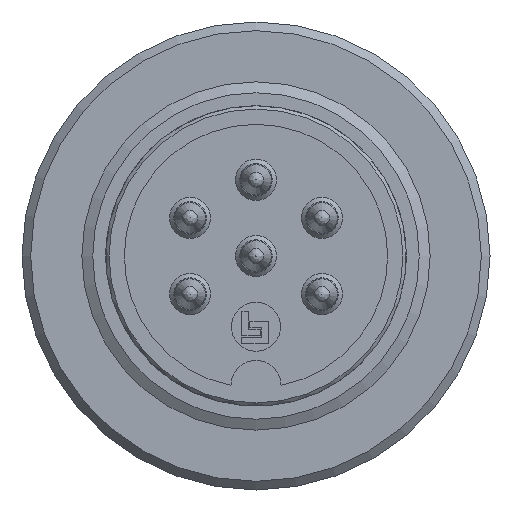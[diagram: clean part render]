
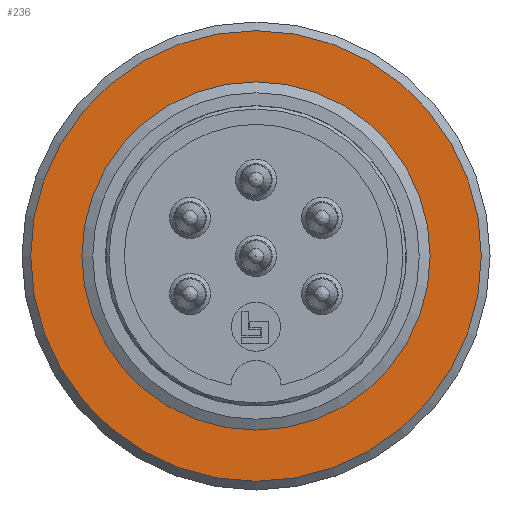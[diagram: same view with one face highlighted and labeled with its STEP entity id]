
A CAD part, left-side view. The second image highlights one B-rep face of the part: STEP entity #236.
In plain terms, the highlighted planar face has unit normal (-1, 0, 0).
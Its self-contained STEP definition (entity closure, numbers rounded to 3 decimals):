
#236=ADVANCED_FACE('',(#428,#429),#344,.F.);
#344=PLANE('',#1831);
#428=FACE_BOUND('',#557,.T.);
#429=FACE_BOUND('',#558,.T.);
#557=EDGE_LOOP('',(#846));
#558=EDGE_LOOP('',(#847));
#729=CIRCLE('',#1816,10.35);
#735=CIRCLE('',#1830,7.5);
#846=ORIENTED_EDGE('',*,*,#1397,.T.);
#847=ORIENTED_EDGE('',*,*,#1403,.T.);
#1240=VERTEX_POINT('',#2554);
#1246=VERTEX_POINT('',#2574);
#1397=EDGE_CURVE('',#1240,#1240,#729,.T.);
#1403=EDGE_CURVE('',#1246,#1246,#735,.T.);
#1816=AXIS2_PLACEMENT_3D('',#2553,#2043,#2044);
#1830=AXIS2_PLACEMENT_3D('',#2573,#2071,#2072);
#1831=AXIS2_PLACEMENT_3D('',#2575,#2073,#2074);
#2043=DIRECTION('',(-1.,0.,0.));
#2044=DIRECTION('',(0.,0.,-1.));
#2071=DIRECTION('',(1.,0.,0.));
#2072=DIRECTION('',(0.,0.,-1.));
#2073=DIRECTION('',(1.,0.,0.));
#2074=DIRECTION('',(0.,0.,-1.));
#2553=CARTESIAN_POINT('',(-3.1,0.,0.));
#2554=CARTESIAN_POINT('',(-3.1,0.,-10.35));
#2573=CARTESIAN_POINT('',(-3.1,0.,0.));
#2574=CARTESIAN_POINT('',(-3.1,0.,-7.5));
#2575=CARTESIAN_POINT('',(-3.1,0.,0.));
